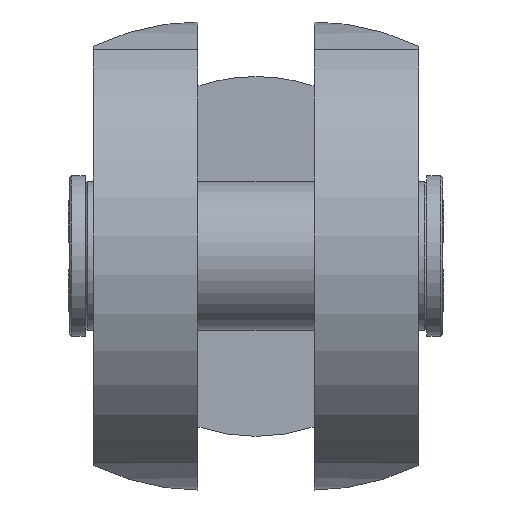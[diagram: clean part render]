
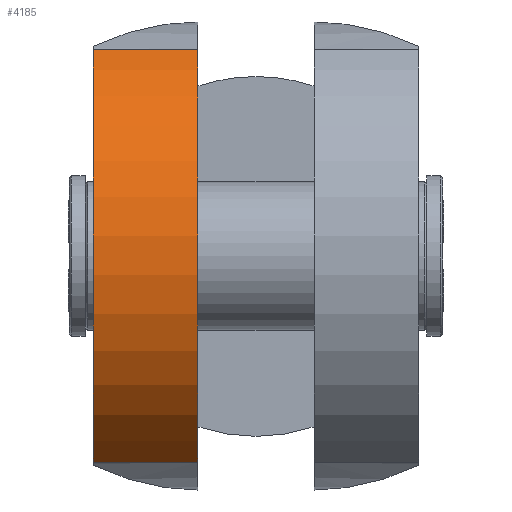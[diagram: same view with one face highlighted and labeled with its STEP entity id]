
A CAD part, top view. The second image highlights one B-rep face of the part: STEP entity #4185.
In plain terms, the highlighted cylindrical face has radius 201.5 mm (diameter 403 mm), a partial arc.
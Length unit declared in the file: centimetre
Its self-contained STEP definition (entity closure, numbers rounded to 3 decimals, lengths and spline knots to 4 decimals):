
#27=CYLINDRICAL_SURFACE('',#4432,20.15);
#403=LINE('',#6709,#787);
#404=LINE('',#6713,#788);
#787=VECTOR('',#5200,9.1);
#788=VECTOR('',#5205,9.1);
#1299=FACE_OUTER_BOUND('',#1559,.T.);
#1559=EDGE_LOOP('',(#3479,#3480,#3481,#3482));
#1715=CIRCLE('',#4413,20.15);
#1727=CIRCLE('',#4433,20.15);
#2048=VERTEX_POINT('',#6679);
#2049=VERTEX_POINT('',#6680);
#2057=VERTEX_POINT('',#6707);
#2058=VERTEX_POINT('',#6711);
#2549=EDGE_CURVE('',#2048,#2049,#1715,.T.);
#2562=EDGE_CURVE('',#2057,#2049,#403,.T.);
#2563=EDGE_CURVE('',#2058,#2057,#1727,.T.);
#2564=EDGE_CURVE('',#2058,#2048,#404,.T.);
#3479=ORIENTED_EDGE('',*,*,#2549,.T.);
#3480=ORIENTED_EDGE('',*,*,#2562,.F.);
#3481=ORIENTED_EDGE('',*,*,#2563,.F.);
#3482=ORIENTED_EDGE('',*,*,#2564,.T.);
#4185=ADVANCED_FACE('',(#1299),#27,.T.);
#4413=AXIS2_PLACEMENT_3D('',#6681,#5161,#5162);
#4432=AXIS2_PLACEMENT_3D('',#6710,#5201,#5202);
#4433=AXIS2_PLACEMENT_3D('',#6712,#5203,#5204);
#5161=DIRECTION('center_axis',(1.,0.,0.));
#5162=DIRECTION('ref_axis',(0.,-0.891,0.455));
#5200=DIRECTION('',(-1.,0.,0.));
#5201=DIRECTION('center_axis',(-1.,0.,0.));
#5202=DIRECTION('ref_axis',(0.,-0.891,0.455));
#5203=DIRECTION('center_axis',(1.,0.,0.));
#5204=DIRECTION('ref_axis',(0.,-0.891,0.455));
#5205=DIRECTION('',(-1.,0.,0.));
#6679=CARTESIAN_POINT('',(-14.15,17.9469,10.0114));
#6680=CARTESIAN_POINT('',(-14.15,-17.9469,10.0114));
#6681=CARTESIAN_POINT('Origin',(-14.15,0.,
0.85));
#6707=CARTESIAN_POINT('',(-5.05,-17.9469,10.0114));
#6709=CARTESIAN_POINT('',(0.,-17.9469,10.0114));
#6710=CARTESIAN_POINT('Origin',(0.,0.,
0.85));
#6711=CARTESIAN_POINT('',(-5.05,17.9469,10.0114));
#6712=CARTESIAN_POINT('Origin',(-5.05,0.,
0.85));
#6713=CARTESIAN_POINT('',(0.,17.9469,10.0114));
